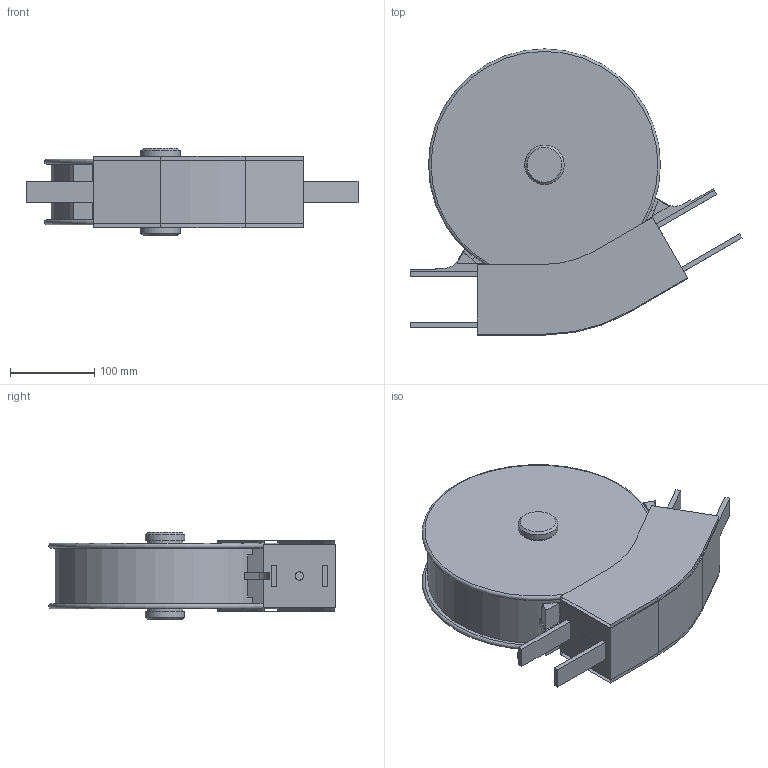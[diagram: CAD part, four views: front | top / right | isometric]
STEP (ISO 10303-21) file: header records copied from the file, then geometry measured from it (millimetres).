
FILE_DESCRIPTION(/* description */ ('Bogenrad 30°'),/* implementation_level */ '2;1');
FILE_NAME(/* name */ 'T:\vdz0\Step Daten Website\modulflex FM-System\Bogenräder\FMBH 30R160 A_43828.stp',/* time_stamp */ '2024-09-03T10:13:21+02:00',/* author */ ('lzb0'),/* organization */ ('modular automation GmbH'),/* preprocessor_version */ 'ST-DEVELOPER v18.1',/* originating_system */ 'Autodesk Inventor 2021',/* authorisation */ '');
FILE_SCHEMA (('AUTOMOTIVE_DESIGN { 1 0 10303 214 3 1 1 }'));
Length unit declared in the file: millimetre
Products named in the file (1): FMBH 30R160 A
Bounding box: 395.06 x 340.5 x 104 mm (x, y, z)
Volume: 6006451.5 mm3; surface area: 430964.6 mm2
Topology: 8 solids, 12 shells, 123 faces, 289 edges, 192 vertices
Faces by surface type: plane 104, cylinder 15, cone 2, torus 2
Full cylindrical faces by diameter (mm): 10 x2, 42 x2, 47 x2, 262 x1
Entity records: 3581 total; most frequent: CARTESIAN_POINT 612, DIRECTION 577, ORIENTED_EDGE 558, EDGE_CURVE 289, LINE 251, VECTOR 251, VERTEX_POINT 192, AXIS2_PLACEMENT_3D 163
